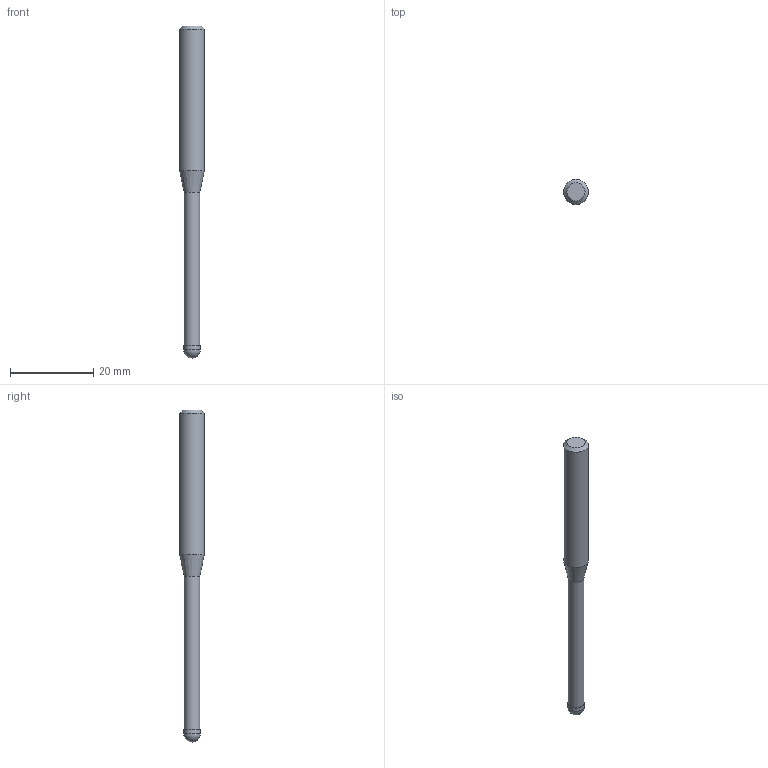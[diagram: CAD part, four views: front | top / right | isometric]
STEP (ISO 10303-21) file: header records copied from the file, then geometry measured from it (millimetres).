
FILE_DESCRIPTION((''),'2;1');
FILE_NAME('C:\Users\nsx150\AppData\Local\Temp\Mastercam 2021\ZXBT0ST9RL\TEMP.step','2021-06-25T11:03:31',(''),(''),'STEP Write','Mastercam 2021 ... CNC Software, Inc.','');
FILE_SCHEMA(('AUTOMOTIVE_DESIGN'));
Length unit declared in the file: millimetre
Products named in the file (1): None
Bounding box: 6 x 6 x 80 mm (x, y, z)
Volume: 1527.3 mm3; surface area: 1259.8 mm2
Topology: 2 solids, 2 shells, 9 faces, 14 edges, 8 vertices
Faces by surface type: plane 3, cylinder 3, cone 2, sphere 1
Full cylindrical faces by diameter (mm): 3.8 x1, 4 x1, 6 x1
Entity records: 211 total; most frequent: DIRECTION 36, CARTESIAN_POINT 25, AXIS2_PLACEMENT_3D 18, ORIENTED_EDGE 14, EDGE_LOOP 14, STYLED_ITEM 12, ADVANCED_FACE 9, FACE_BOUND 8
